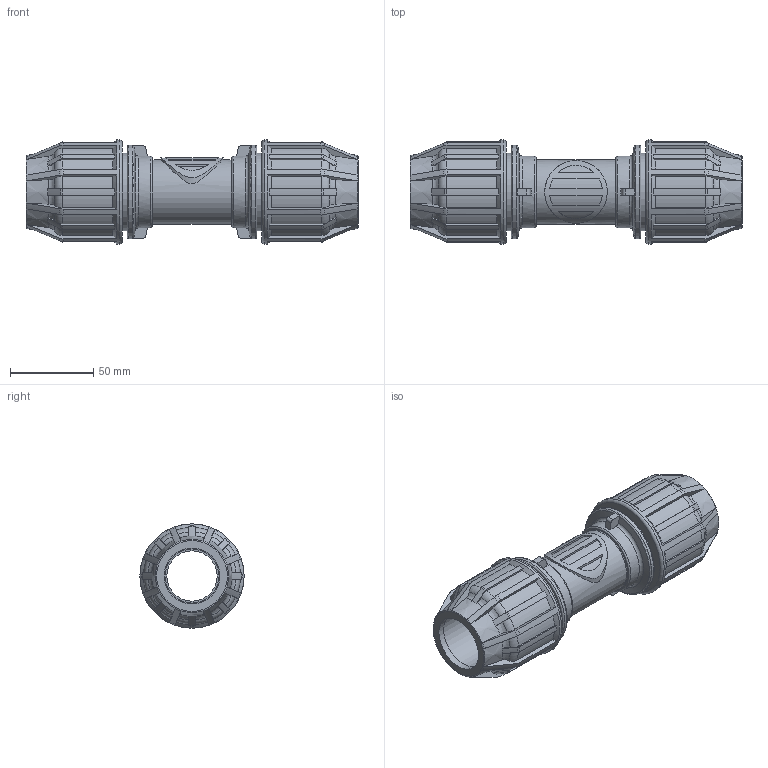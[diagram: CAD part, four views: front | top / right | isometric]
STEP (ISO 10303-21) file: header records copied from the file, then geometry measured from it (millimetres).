
FILE_DESCRIPTION(/* description */ ('STEP AP214'),/* implementation_level */ '2;1');
FILE_NAME(/* name */ '331B00032(400)',/* time_stamp */ '2025-01-13T14:30:21+01:00',/* author */ ('License CC BY-ND 4.0'),/* organization */ ('CADENAS'),/* preprocessor_version */ 'ST-DEVELOPER v19.3',/* originating_system */ 'PARTsolutions',/* authorisation */ ' ');
FILE_SCHEMA (('AUTOMOTIVE_DESIGN {1 0 10303 214 3 1 1}'));
Length unit declared in the file: millimetre
Products named in the file (1): 331B00032(400)
Bounding box: 199 x 62.5 x 62.5 mm (x, y, z)
Volume: 229539.1 mm3; surface area: 66263.3 mm2
Topology: 1 solids, 1 shells, 362 faces, 1024 edges, 679 vertices
Faces by surface type: torus 114, plane 98, cylinder 82, cone 68
Full cylindrical faces by diameter (mm): 30.15 x1, 33.5 x2, 35.5 x2, 37.412 x1, 38.75 x1, 43.125 x2, 46.25 x2, 56.25 x2, 62.5 x2
Entity records: 12251 total; most frequent: CARTESIAN_POINT 3602, ORIENTED_EDGE 1972, DIRECTION 1578, EDGE_CURVE 986, AXIS2_PLACEMENT_3D 695, VERTEX_POINT 670, B_SPLINE_CURVE_WITH_KNOTS 466, EDGE_LOOP 408
